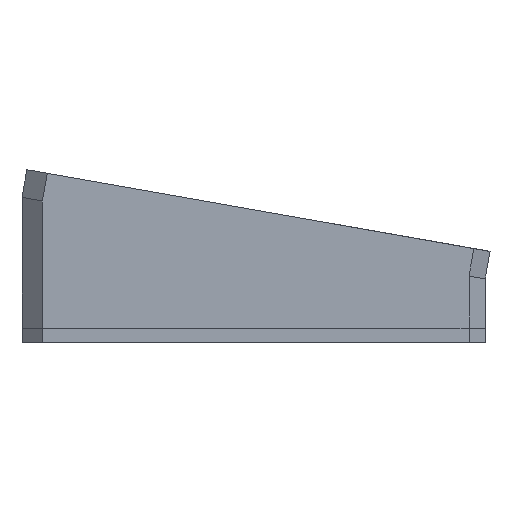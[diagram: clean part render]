
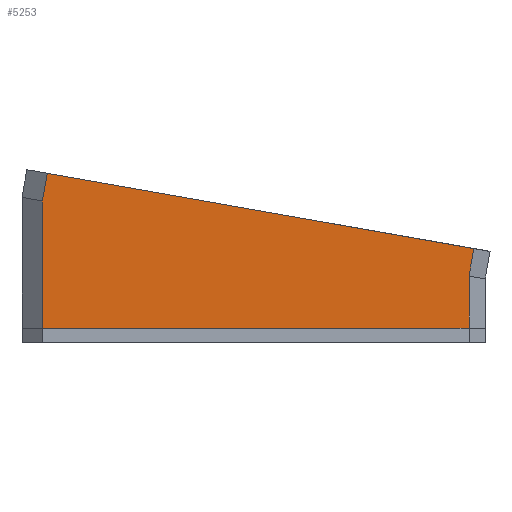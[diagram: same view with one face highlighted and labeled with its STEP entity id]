
A CAD part, left-side view. The second image highlights one B-rep face of the part: STEP entity #5253.
In plain terms, the highlighted planar face has unit normal (-1, 0, 0).
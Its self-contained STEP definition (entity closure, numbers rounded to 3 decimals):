
#171=FACE_OUTER_BOUND('',#465,.T.);
#465=EDGE_LOOP('',(#3714,#3715,#3716,#3717,#3718,#3719));
#893=LINE('',#7685,#1609);
#894=LINE('',#7687,#1610);
#895=LINE('',#7689,#1611);
#896=LINE('',#7691,#1612);
#897=LINE('',#7693,#1613);
#898=LINE('',#7694,#1614);
#1609=VECTOR('',#6199,10.);
#1610=VECTOR('',#6200,10.);
#1611=VECTOR('',#6201,10.);
#1612=VECTOR('',#6202,10.);
#1613=VECTOR('',#6203,10.);
#1614=VECTOR('',#6204,10.);
#2304=VERTEX_POINT('',#7683);
#2305=VERTEX_POINT('',#7684);
#2306=VERTEX_POINT('',#7686);
#2307=VERTEX_POINT('',#7688);
#2308=VERTEX_POINT('',#7690);
#2309=VERTEX_POINT('',#7692);
#2849=EDGE_CURVE('',#2304,#2305,#893,.T.);
#2850=EDGE_CURVE('',#2306,#2304,#894,.T.);
#2851=EDGE_CURVE('',#2306,#2307,#895,.T.);
#2852=EDGE_CURVE('',#2307,#2308,#896,.T.);
#2853=EDGE_CURVE('',#2309,#2308,#897,.T.);
#2854=EDGE_CURVE('',#2305,#2309,#898,.T.);
#3714=ORIENTED_EDGE('',*,*,#2849,.F.);
#3715=ORIENTED_EDGE('',*,*,#2850,.F.);
#3716=ORIENTED_EDGE('',*,*,#2851,.T.);
#3717=ORIENTED_EDGE('',*,*,#2852,.T.);
#3718=ORIENTED_EDGE('',*,*,#2853,.F.);
#3719=ORIENTED_EDGE('',*,*,#2854,.F.);
#4986=PLANE('',#5595);
#5253=ADVANCED_FACE('',(#171),#4986,.T.);
#5595=AXIS2_PLACEMENT_3D('',#7682,#6197,#6198);
#6197=DIRECTION('center_axis',(-1.,0.,0.));
#6198=DIRECTION('ref_axis',(0.,-0.985,-0.174));
#6199=DIRECTION('',(0.,0.174,-0.985));
#6200=DIRECTION('',(0.,-0.985,-0.174));
#6201=DIRECTION('',(0.,0.174,-0.985));
#6202=DIRECTION('',(0.,0.,-1.));
#6203=DIRECTION('',(0.,1.,0.));
#6204=DIRECTION('',(0.,0.,-1.));
#7682=CARTESIAN_POINT('Origin',(-6.367,-67.872,30.914));
#7683=CARTESIAN_POINT('',(-6.367,-128.964,22.173));
#7684=CARTESIAN_POINT('',(-6.367,-128.27,18.233));
#7685=CARTESIAN_POINT('',(-6.367,-128.617,20.203));
#7686=CARTESIAN_POINT('',(-6.367,-68.219,32.884));
#7687=CARTESIAN_POINT('',(-6.367,-128.964,22.173));
#7688=CARTESIAN_POINT('',(-6.367,-67.525,28.944));
#7689=CARTESIAN_POINT('',(-6.367,-67.872,30.914));
#7690=CARTESIAN_POINT('',(-6.367,-67.525,10.829));
#7691=CARTESIAN_POINT('',(-6.367,-67.525,28.944));
#7692=CARTESIAN_POINT('',(-6.367,-128.27,10.829));
#7693=CARTESIAN_POINT('',(-6.367,-128.27,10.829));
#7694=CARTESIAN_POINT('',(-6.367,-128.27,17.829));
